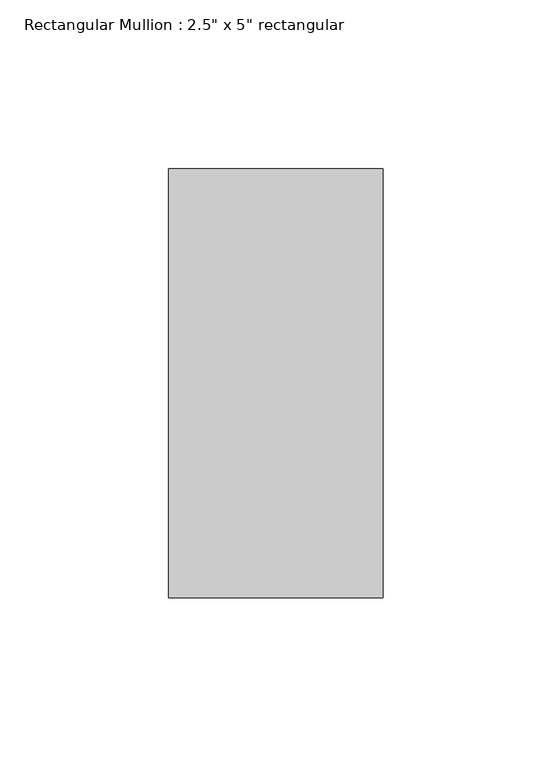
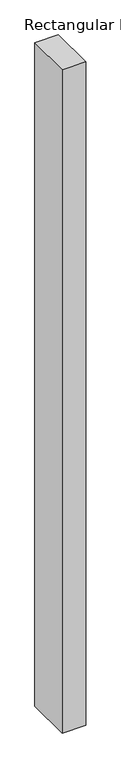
"""IFC4 building model written with IfcOpenShell, lengths in millimetres: member geometry."""

from ifc_helpers import new_model, si_unit, frame, origin, place, context, project, spatial, polyline, outline, extrude, source, transform, mapped, element, save


def member_30b3e1b1(model_context):
    return source(origin(), model_context, "Body", "SweptSolid", [
        extrude(outline(polyline([(0.0, 63.5), (0.0, -63.5), (-63.5, -63.5), (-63.5, 63.5), (0.0, 63.5)])), frame((0.0, 0.0, -1892.3), z_axis=(0.0, 0.0, 1.0), x_axis=(1.0, 0.0, 0.0)), (0.0, 0.0, 1.0), 1892.3),
    ])


if __name__ == "__main__":
    model = new_model("IFC4")
    model_context = context("Model", 3, world=origin())
    ifc_project = project(units=[si_unit("LENGTHUNIT", "METRE", prefix="MILLI")], contexts=[model_context])
    site = spatial("IfcSite", under=ifc_project)
    building = spatial("IfcBuilding", under=site)
    placement = place(None, origin())
    member_shape = member_30b3e1b1(model_context)
    element("IfcMember", 1, ObjectType="Rectangular Mullion : 2.5\" x 5\" rectangular", at=placement, inside=building, context=model_context, shape_type="MappedRepresentation", body=[
        mapped(member_shape, transform((0.0, 0.0, 0.0), x_axis=(1.0, 0.0, 0.0), y_axis=(0.0, 1.0, 0.0), z_axis=(0.0, 0.0, 1.0))),
    ])
    save(model, "model.ifc")
